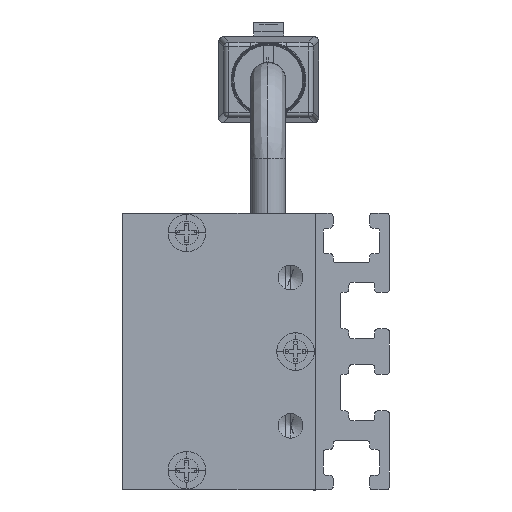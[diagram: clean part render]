
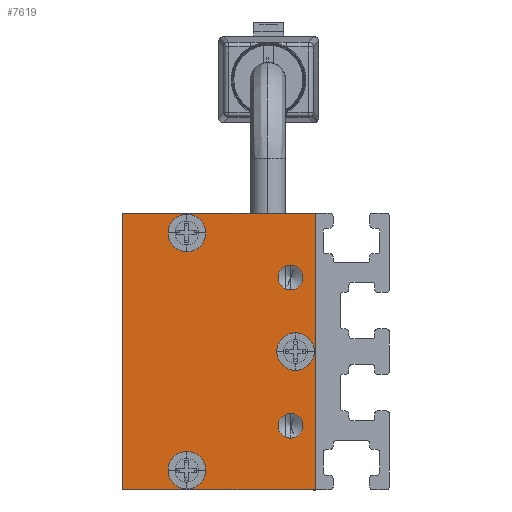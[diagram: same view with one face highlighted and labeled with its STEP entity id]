
A CAD part, left-side view. The second image highlights one B-rep face of the part: STEP entity #7619.
In plain terms, the highlighted planar face has unit normal (-1, 0, 0) as drawn and (0, 0, -1) by its records, which use the part's own axes.
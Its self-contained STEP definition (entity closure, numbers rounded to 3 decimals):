
#28 = VERTEX_POINT ( 'NONE', #8932 ) ;
#37 = CIRCLE ( 'NONE', #5489, 1.9 ) ;
#229 = ORIENTED_EDGE ( 'NONE', *, *, #11022, .F. ) ;
#300 = DIRECTION ( 'NONE',  ( 0., 0., -1. ) ) ;
#396 = CARTESIAN_POINT ( 'NONE',  ( -8.75, 2.5, -2.5 ) ) ;
#397 = EDGE_CURVE ( 'NONE', #10097, #1782, #10511, .T. ) ;
#574 = DIRECTION ( 'NONE',  ( 0., 0., -1. ) ) ;
#620 = CARTESIAN_POINT ( 'NONE',  ( 8.75, 2.5, -2.5 ) ) ;
#623 = CIRCLE ( 'NONE', #1296, 1.25 ) ;
#654 = ORIENTED_EDGE ( 'NONE', *, *, #1187, .F. ) ;
#1027 = EDGE_CURVE ( 'NONE', #13305, #13393, #11834, .T. ) ;
#1063 = DIRECTION ( 'NONE',  ( 0., -1., 0. ) ) ;
#1093 = ORIENTED_EDGE ( 'NONE', *, *, #2004, .F. ) ;
#1187 = EDGE_CURVE ( 'NONE', #28, #2778, #8464, .T. ) ;
#1267 = CARTESIAN_POINT ( 'NONE',  ( 0., 0., -2.5 ) ) ;
#1296 = AXIS2_PLACEMENT_3D ( 'NONE', #11670, #10679, #4998 ) ;
#1341 = AXIS2_PLACEMENT_3D ( 'NONE', #1731, #12727, #6069 ) ;
#1411 = DIRECTION ( 'NONE',  ( 0., 0., -1. ) ) ;
#1469 = CIRCLE ( 'NONE', #13715, 1.25 ) ;
#1552 = DIRECTION ( 'NONE',  ( -1., 0., 0. ) ) ;
#1731 = CARTESIAN_POINT ( 'NONE',  ( 0., 2., -2.5 ) ) ;
#1768 = VERTEX_POINT ( 'NONE', #9641 ) ;
#1782 = VERTEX_POINT ( 'NONE', #13964 ) ;
#1859 = VECTOR ( 'NONE', #6277, 1000. ) ;
#1988 = ORIENTED_EDGE ( 'NONE', *, *, #8912, .F. ) ;
#2004 = EDGE_CURVE ( 'NONE', #2778, #13742, #13330, .T. ) ;
#2055 = LINE ( 'NONE', #12692, #4235 ) ;
#2426 = VERTEX_POINT ( 'NONE', #9213 ) ;
#2544 = AXIS2_PLACEMENT_3D ( 'NONE', #10541, #10323, #13576 ) ;
#2577 = DIRECTION ( 'NONE',  ( -1., 0., 0. ) ) ;
#2749 = AXIS2_PLACEMENT_3D ( 'NONE', #5698, #300, #2577 ) ;
#2778 = VERTEX_POINT ( 'NONE', #11393 ) ;
#2820 = EDGE_CURVE ( 'NONE', #4436, #13044, #12907, .T. ) ;
#2931 = EDGE_LOOP ( 'NONE', ( #6507, #5459 ) ) ;
#2953 = ORIENTED_EDGE ( 'NONE', *, *, #6148, .F. ) ;
#3019 = ORIENTED_EDGE ( 'NONE', *, *, #12779, .F. ) ;
#3223 = CIRCLE ( 'NONE', #5927, 1.9 ) ;
#3298 = VERTEX_POINT ( 'NONE', #11728 ) ;
#3411 = FACE_BOUND ( 'NONE', #13094, .T. ) ;
#3485 = FACE_BOUND ( 'NONE', #11338, .T. ) ;
#3589 = CARTESIAN_POINT ( 'NONE',  ( 7.5, 2.5, -2.5 ) ) ;
#3617 = CARTESIAN_POINT ( 'NONE',  ( -14., 19.5, -2.5 ) ) ;
#3665 = CIRCLE ( 'NONE', #4356, 1.9 ) ;
#3858 = VERTEX_POINT ( 'NONE', #13588 ) ;
#3903 = DIRECTION ( 'NONE',  ( -1., 0., 0. ) ) ;
#4235 = VECTOR ( 'NONE', #1063, 1000. ) ;
#4356 = AXIS2_PLACEMENT_3D ( 'NONE', #11285, #5895, #1552 ) ;
#4436 = VERTEX_POINT ( 'NONE', #11511 ) ;
#4796 = ORIENTED_EDGE ( 'NONE', *, *, #10886, .F. ) ;
#4852 = DIRECTION ( 'NONE',  ( -1., 0., 0. ) ) ;
#4998 = DIRECTION ( 'NONE',  ( -1., 0., 0. ) ) ;
#5037 = DIRECTION ( 'NONE',  ( -1., 0., 0. ) ) ;
#5188 = ORIENTED_EDGE ( 'NONE', *, *, #2820, .F. ) ;
#5437 = EDGE_CURVE ( 'NONE', #13393, #13305, #1469, .T. ) ;
#5459 = ORIENTED_EDGE ( 'NONE', *, *, #5437, .F. ) ;
#5468 = DIRECTION ( 'NONE',  ( -1., 0., 0. ) ) ;
#5489 = AXIS2_PLACEMENT_3D ( 'NONE', #6970, #574, #4852 ) ;
#5530 = CARTESIAN_POINT ( 'NONE',  ( 1.9, 2., -2.5 ) ) ;
#5698 = CARTESIAN_POINT ( 'NONE',  ( -12., 13., -2.5 ) ) ;
#5806 = DIRECTION ( 'NONE',  ( -1., 0., 0. ) ) ;
#5895 = DIRECTION ( 'NONE',  ( 0., 0., -1. ) ) ;
#5927 = AXIS2_PLACEMENT_3D ( 'NONE', #11348, #13621, #5037 ) ;
#6069 = DIRECTION ( 'NONE',  ( -1., 0., 0. ) ) ;
#6148 = EDGE_CURVE ( 'NONE', #13742, #3298, #2055, .T. ) ;
#6277 = DIRECTION ( 'NONE',  ( 0., 1., 0. ) ) ;
#6507 = ORIENTED_EDGE ( 'NONE', *, *, #1027, .F. ) ;
#6587 = EDGE_LOOP ( 'NONE', ( #654, #12119, #2953, #1093 ) ) ;
#6608 = CARTESIAN_POINT ( 'NONE',  ( -14., 19.5, -2.5 ) ) ;
#6699 = CARTESIAN_POINT ( 'NONE',  ( -7.5, 2.5, -2.5 ) ) ;
#6888 = DIRECTION ( 'NONE',  ( -1., 0., 0. ) ) ;
#6970 = CARTESIAN_POINT ( 'NONE',  ( 0., 2., -2.5 ) ) ;
#7210 = LINE ( 'NONE', #13598, #9581 ) ;
#7248 = ORIENTED_EDGE ( 'NONE', *, *, #12719, .F. ) ;
#7284 = CIRCLE ( 'NONE', #2749, 1.9 ) ;
#7619 = ADVANCED_FACE ( 'NONE', ( #13112, #3411, #9803, #3485, #11004, #13261 ), #10866, .T. ) ;
#7620 = AXIS2_PLACEMENT_3D ( 'NONE', #9295, #12352, #3903 ) ;
#8047 = DIRECTION ( 'NONE',  ( 0., 0., -1. ) ) ;
#8185 = EDGE_LOOP ( 'NONE', ( #7248, #1988 ) ) ;
#8464 = LINE ( 'NONE', #11945, #1859 ) ;
#8732 = EDGE_CURVE ( 'NONE', #1782, #10097, #623, .T. ) ;
#8912 = EDGE_CURVE ( 'NONE', #9700, #1768, #10582, .T. ) ;
#8932 = CARTESIAN_POINT ( 'NONE',  ( 14., 0., -2.5 ) ) ;
#9213 = CARTESIAN_POINT ( 'NONE',  ( -13.9, 13., -2.5 ) ) ;
#9248 = ORIENTED_EDGE ( 'NONE', *, *, #8732, .F. ) ;
#9295 = CARTESIAN_POINT ( 'NONE',  ( 12., 13., -2.5 ) ) ;
#9374 = AXIS2_PLACEMENT_3D ( 'NONE', #3589, #8047, #5806 ) ;
#9427 = CARTESIAN_POINT ( 'NONE',  ( -6.25, 2.5, -2.5 ) ) ;
#9581 = VECTOR ( 'NONE', #10201, 1000. ) ;
#9641 = CARTESIAN_POINT ( 'NONE',  ( 10.1, 13., -2.5 ) ) ;
#9700 = VERTEX_POINT ( 'NONE', #11232 ) ;
#9803 = FACE_BOUND ( 'NONE', #11383, .T. ) ;
#10097 = VERTEX_POINT ( 'NONE', #620 ) ;
#10201 = DIRECTION ( 'NONE',  ( 1., 0., 0. ) ) ;
#10318 = ORIENTED_EDGE ( 'NONE', *, *, #397, .F. ) ;
#10323 = DIRECTION ( 'NONE',  ( 0., 0., -1. ) ) ;
#10511 = CIRCLE ( 'NONE', #9374, 1.25 ) ;
#10541 = CARTESIAN_POINT ( 'NONE',  ( -7.5, 2.5, -2.5 ) ) ;
#10571 = DIRECTION ( 'NONE',  ( -1., 0., 0. ) ) ;
#10582 = CIRCLE ( 'NONE', #7620, 1.9 ) ;
#10679 = DIRECTION ( 'NONE',  ( 0., 0., -1. ) ) ;
#10866 = PLANE ( 'NONE',  #11603 ) ;
#10886 = EDGE_CURVE ( 'NONE', #2426, #3858, #7284, .T. ) ;
#11004 = FACE_BOUND ( 'NONE', #2931, .T. ) ;
#11022 = EDGE_CURVE ( 'NONE', #13044, #4436, #37, .T. ) ;
#11035 = DIRECTION ( 'NONE',  ( 0., 0., -1. ) ) ;
#11232 = CARTESIAN_POINT ( 'NONE',  ( 13.9, 13., -2.5 ) ) ;
#11285 = CARTESIAN_POINT ( 'NONE',  ( 12., 13., -2.5 ) ) ;
#11338 = EDGE_LOOP ( 'NONE', ( #9248, #10318 ) ) ;
#11348 = CARTESIAN_POINT ( 'NONE',  ( -12., 13., -2.5 ) ) ;
#11383 = EDGE_LOOP ( 'NONE', ( #5188, #229 ) ) ;
#11393 = CARTESIAN_POINT ( 'NONE',  ( 14., 19.5, -2.5 ) ) ;
#11511 = CARTESIAN_POINT ( 'NONE',  ( -1.9, 2., -2.5 ) ) ;
#11603 = AXIS2_PLACEMENT_3D ( 'NONE', #1267, #1411, #5468 ) ;
#11670 = CARTESIAN_POINT ( 'NONE',  ( 7.5, 2.5, -2.5 ) ) ;
#11728 = CARTESIAN_POINT ( 'NONE',  ( -14., 0., -2.5 ) ) ;
#11834 = CIRCLE ( 'NONE', #2544, 1.25 ) ;
#11945 = CARTESIAN_POINT ( 'NONE',  ( 14., 19.5, -2.5 ) ) ;
#12119 = ORIENTED_EDGE ( 'NONE', *, *, #13226, .F. ) ;
#12352 = DIRECTION ( 'NONE',  ( 0., 0., -1. ) ) ;
#12657 = VECTOR ( 'NONE', #6888, 1000. ) ;
#12692 = CARTESIAN_POINT ( 'NONE',  ( -14., 0., -2.5 ) ) ;
#12719 = EDGE_CURVE ( 'NONE', #1768, #9700, #3665, .T. ) ;
#12727 = DIRECTION ( 'NONE',  ( 0., 0., -1. ) ) ;
#12779 = EDGE_CURVE ( 'NONE', #3858, #2426, #3223, .T. ) ;
#12907 = CIRCLE ( 'NONE', #1341, 1.9 ) ;
#13044 = VERTEX_POINT ( 'NONE', #5530 ) ;
#13094 = EDGE_LOOP ( 'NONE', ( #4796, #3019 ) ) ;
#13112 = FACE_BOUND ( 'NONE', #8185, .T. ) ;
#13226 = EDGE_CURVE ( 'NONE', #3298, #28, #7210, .T. ) ;
#13261 = FACE_OUTER_BOUND ( 'NONE', #6587, .T. ) ;
#13305 = VERTEX_POINT ( 'NONE', #396 ) ;
#13330 = LINE ( 'NONE', #3617, #12657 ) ;
#13393 = VERTEX_POINT ( 'NONE', #9427 ) ;
#13576 = DIRECTION ( 'NONE',  ( -1., 0., 0. ) ) ;
#13588 = CARTESIAN_POINT ( 'NONE',  ( -10.1, 13., -2.5 ) ) ;
#13598 = CARTESIAN_POINT ( 'NONE',  ( 14., 0., -2.5 ) ) ;
#13621 = DIRECTION ( 'NONE',  ( 0., 0., -1. ) ) ;
#13715 = AXIS2_PLACEMENT_3D ( 'NONE', #6699, #11035, #10571 ) ;
#13742 = VERTEX_POINT ( 'NONE', #6608 ) ;
#13964 = CARTESIAN_POINT ( 'NONE',  ( 6.25, 2.5, -2.5 ) ) ;
